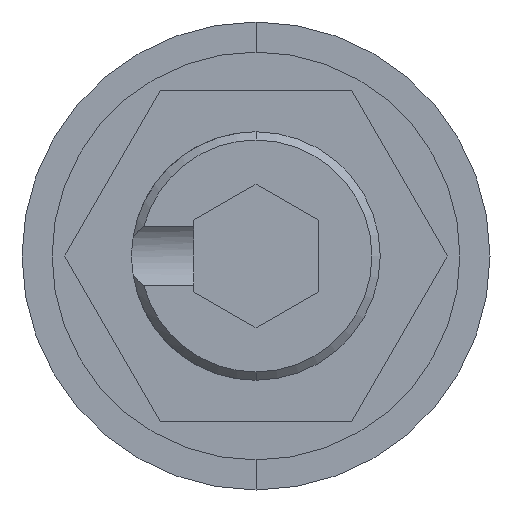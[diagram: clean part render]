
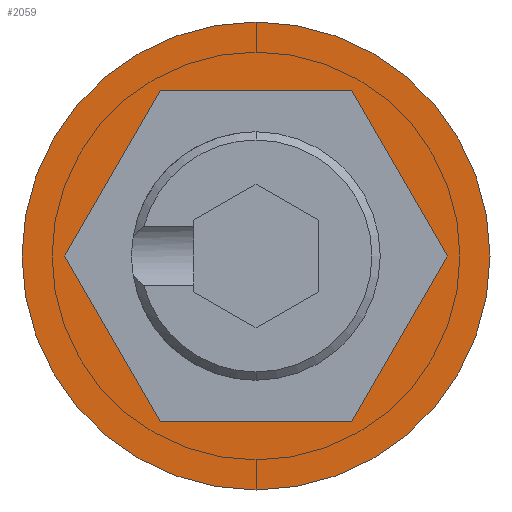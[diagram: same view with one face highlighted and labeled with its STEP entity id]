
A CAD part, front view. The second image highlights one B-rep face of the part: STEP entity #2059.
In plain terms, the highlighted planar face has unit normal (0, -1, 0).
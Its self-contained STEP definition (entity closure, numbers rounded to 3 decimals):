
#27 = PLANE ( 'NONE',  #1302 ) ;
#38 = VECTOR ( 'NONE', #1906, 1000. ) ;
#39 = LINE ( 'NONE', #1950, #38 ) ;
#46 = ORIENTED_EDGE ( 'NONE', *, *, #1480, .T. ) ;
#53 = DIRECTION ( 'NONE',  ( 0.5, 0., 0.866 ) ) ;
#61 = VECTOR ( 'NONE', #53, 1000. ) ;
#65 = LINE ( 'NONE', #1928, #61 ) ;
#120 = DIRECTION ( 'NONE',  ( 0., -1., 0. ) ) ;
#178 = CARTESIAN_POINT ( 'NONE',  ( 2.309, 0., 4. ) ) ;
#264 = EDGE_CURVE ( 'NONE', #766, #1635, #475, .T. ) ;
#279 = CIRCLE ( 'NONE', #884, 5.65 ) ;
#308 = AXIS2_PLACEMENT_3D ( 'NONE', #1631, #2021, #1603 ) ;
#317 = EDGE_CURVE ( 'NONE', #1941, #960, #456, .T. ) ;
#334 = ORIENTED_EDGE ( 'NONE', *, *, #452, .F. ) ;
#342 = LINE ( 'NONE', #817, #364 ) ;
#364 = VECTOR ( 'NONE', #1103, 1000. ) ;
#404 = VERTEX_POINT ( 'NONE', #1669 ) ;
#448 = VECTOR ( 'NONE', #762, 1000. ) ;
#452 = EDGE_CURVE ( 'NONE', #960, #1128, #342, .T. ) ;
#456 = LINE ( 'NONE', #1702, #448 ) ;
#473 = VECTOR ( 'NONE', #587, 1000. ) ;
#475 = LINE ( 'NONE', #1491, #473 ) ;
#485 = CARTESIAN_POINT ( 'NONE',  ( 0., 0., -5.65 ) ) ;
#487 = DIRECTION ( 'NONE',  ( 0., 0., -1. ) ) ;
#576 = EDGE_CURVE ( 'NONE', #2030, #779, #279, .T. ) ;
#587 = DIRECTION ( 'NONE',  ( 1., 0., 0. ) ) ;
#684 = CARTESIAN_POINT ( 'NONE',  ( -4.619, 0., 0. ) ) ;
#696 = DIRECTION ( 'NONE',  ( 0.5, 0., -0.866 ) ) ;
#762 = DIRECTION ( 'NONE',  ( -1., 0., 0. ) ) ;
#766 = VERTEX_POINT ( 'NONE', #1976 ) ;
#779 = VERTEX_POINT ( 'NONE', #485 ) ;
#817 = CARTESIAN_POINT ( 'NONE',  ( -2.309, 0., 4. ) ) ;
#820 = EDGE_LOOP ( 'NONE', ( #46, #1120 ) ) ;
#884 = AXIS2_PLACEMENT_3D ( 'NONE', #1303, #120, #487 ) ;
#894 = FACE_BOUND ( 'NONE', #1188, .T. ) ;
#960 = VERTEX_POINT ( 'NONE', #1009 ) ;
#1009 = CARTESIAN_POINT ( 'NONE',  ( -2.309, 0., 4. ) ) ;
#1028 = EDGE_CURVE ( 'NONE', #1635, #404, #65, .T. ) ;
#1070 = EDGE_CURVE ( 'NONE', #404, #1941, #39, .T. ) ;
#1084 = LINE ( 'NONE', #684, #1743 ) ;
#1103 = DIRECTION ( 'NONE',  ( -0.5, 0., -0.866 ) ) ;
#1120 = ORIENTED_EDGE ( 'NONE', *, *, #576, .T. ) ;
#1128 = VERTEX_POINT ( 'NONE', #1172 ) ;
#1172 = CARTESIAN_POINT ( 'NONE',  ( -4.619, 0., 0. ) ) ;
#1188 = EDGE_LOOP ( 'NONE', ( #1833, #1916, #334, #2005, #1504, #1244 ) ) ;
#1244 = ORIENTED_EDGE ( 'NONE', *, *, #1028, .F. ) ;
#1277 = CARTESIAN_POINT ( 'NONE',  ( 0., 0., 0. ) ) ;
#1302 = AXIS2_PLACEMENT_3D ( 'NONE', #1277, #1656, #2072 ) ;
#1303 = CARTESIAN_POINT ( 'NONE',  ( 0., 0., 0. ) ) ;
#1480 = EDGE_CURVE ( 'NONE', #779, #2030, #1633, .T. ) ;
#1491 = CARTESIAN_POINT ( 'NONE',  ( -2.309, 0., -4. ) ) ;
#1504 = ORIENTED_EDGE ( 'NONE', *, *, #1070, .F. ) ;
#1518 = CARTESIAN_POINT ( 'NONE',  ( 0., 0., 5.65 ) ) ;
#1574 = CARTESIAN_POINT ( 'NONE',  ( 2.309, 0., -4. ) ) ;
#1603 = DIRECTION ( 'NONE',  ( 0., 0., -1. ) ) ;
#1631 = CARTESIAN_POINT ( 'NONE',  ( 0., 0., 0. ) ) ;
#1633 = CIRCLE ( 'NONE', #308, 5.65 ) ;
#1635 = VERTEX_POINT ( 'NONE', #1574 ) ;
#1656 = DIRECTION ( 'NONE',  ( 0., -1., 0. ) ) ;
#1669 = CARTESIAN_POINT ( 'NONE',  ( 4.619, 0., 0. ) ) ;
#1702 = CARTESIAN_POINT ( 'NONE',  ( 2.309, 0., 4. ) ) ;
#1743 = VECTOR ( 'NONE', #696, 1000. ) ;
#1833 = ORIENTED_EDGE ( 'NONE', *, *, #264, .F. ) ;
#1900 = EDGE_CURVE ( 'NONE', #1128, #766, #1084, .T. ) ;
#1906 = DIRECTION ( 'NONE',  ( -0.5, 0., 0.866 ) ) ;
#1916 = ORIENTED_EDGE ( 'NONE', *, *, #1900, .F. ) ;
#1926 = FACE_OUTER_BOUND ( 'NONE', #820, .T. ) ;
#1928 = CARTESIAN_POINT ( 'NONE',  ( 2.309, 0., -4. ) ) ;
#1941 = VERTEX_POINT ( 'NONE', #178 ) ;
#1950 = CARTESIAN_POINT ( 'NONE',  ( 4.619, 0., 0. ) ) ;
#1976 = CARTESIAN_POINT ( 'NONE',  ( -2.309, 0., -4. ) ) ;
#2005 = ORIENTED_EDGE ( 'NONE', *, *, #317, .F. ) ;
#2021 = DIRECTION ( 'NONE',  ( 0., -1., 0. ) ) ;
#2030 = VERTEX_POINT ( 'NONE', #1518 ) ;
#2059 = ADVANCED_FACE ( 'NONE', ( #894, #1926 ), #27, .T. ) ;
#2072 = DIRECTION ( 'NONE',  ( 0., 0., -1. ) ) ;
